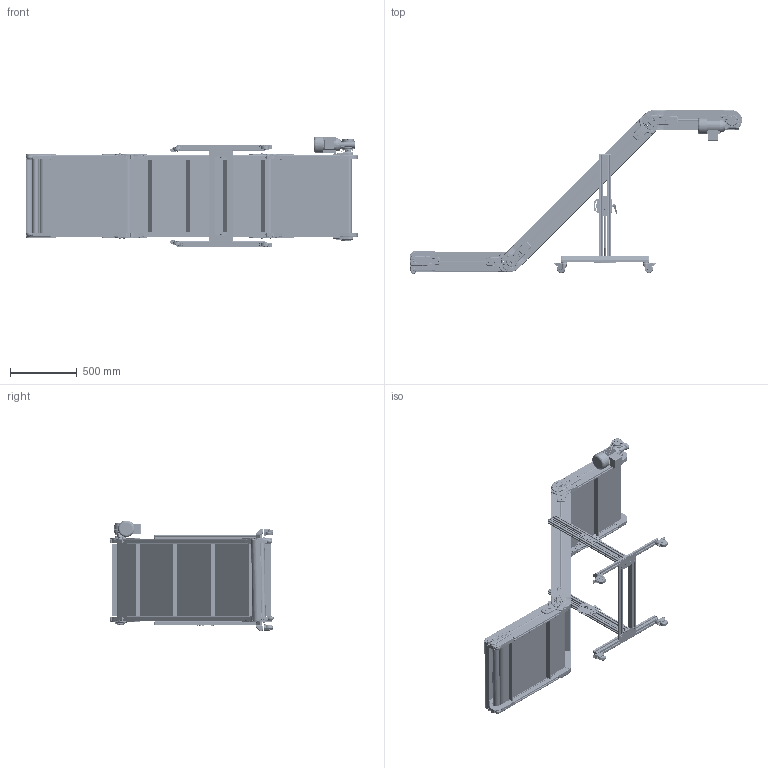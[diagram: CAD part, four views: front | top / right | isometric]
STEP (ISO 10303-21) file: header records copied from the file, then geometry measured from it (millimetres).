
FILE_DESCRIPTION (( 'STEP AP203' ), '1' );
FILE_NAME ('NASTRO_STAMPAGGIO_PLASTICA.step', '2026-05-04T09:40:16', ( 'Utente Windows' ), ( '' ), 'SwSTEP 2.0', 'SolidWorks 2024', '' );
FILE_SCHEMA (( 'CONFIG_CONTROL_DESIGN' ));
Length unit declared in the file: millimetre
Products named in the file (80): 084.831.014; 084.831.KI.550; 084.831.005_L; CUSCINETTI A SFERE_6001-2RS; MR.63 p-M8x16; 084.831.023; NASTRO_STAMPAGGIO_PLASTICA; 084.831.011; 084.831.002; 084.831.KA.550_A; 084.404.003; 084.831.004; LAMIERA_T3; RONDELLE FASCIA LARGA UNI 6593_6.4x24 UNI 6593; 084.831.003; CH04P_DX; 084.831.051_Default<A macchina>; 013.100.050_L; 013.100.045; RONDELLE UNI 6592_10.5x21 UNI 6592; 084.527.014 - CORPO; 013.100.050; 084.831.KP.550; 084.831.040.550; 084.831.013; 084.803.018; VITI TCEI UNI 5931_M8x45 UNI 5931; 084.831.015; 084.301.000 VITI ALUSIC_084.301.003; VITI TCEI UNI 5931_M5x12 UNI 5931; 084.808.012; 084.201.013; 084.831.009; 084.831.046; RONDELLE UNI 6592_6.4x12.5 UNI 6592; 084.802.062; 084.831.007; 084.831.056; 361102 serie 36; VITI TCEI UNI 5931_M5x40 UNI 5931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
Assembly tree (203 placements, depth 4):
  NASTRO_STAMPAGGIO_PLASTICA
    TAPPETO_Z
    TELAIO_Z_Default<A macchina>
    084.831.KD.44.550_DX
      084.831.004  x2
      084.831.047
      084.831.017  x2
      084.802.071
      084.301.000 VITI ALUSIC_084.301.003
      084.802.034_084.802.034  x2
      084.802.061
      VITI TE UNI 5739_M6x16 UNI 5739  x5
      CHIAVETTE_A 6x6x60 UNI 6604-69
      RONDELLE FASCIA LARGA UNI 6593_6.4x24 UNI 6593
      084.808.012
      RONDELLE UNI 6592_8.4x17 UNI 6592
      084.802.062
      084.803.018
      0412TRSEA2  x10
      VITI TCEI UNI 5931_M5x12 UNI 5931  x4
    084.831.KI.550
      084.831.001_Default<A macchina>  x2
      084.831.024  x2
      361102 serie 36  x2
      084.831.018.600
      VITI TE UNI 5739_M6x120 UNI5739  x2
      RONDELLE UNI 6592_6.4x12.5 UNI 6592  x2
      084.301.000 VITI ALUSIC_084.301.003  x2
      084.831.050
      084.831.040.550
      084.831.023  x4
      0412TRSEA2  x12
    084.831.KA_550_B  x2
      084.831.003
      084.302.016
      084.301.000 VITI ALUSIC_084.301.003
      084.831.021
      084.831.009
      084.831.014
      084.831.016
      084.831.011
      12UNI7435
      0412TRSEA2
      084.831.005
        084.831.005_L
        CUSCINETTI A SFERE_6001-2RS
    084.831.KA.550_A  x2
      084.831.002
      084.302.016
      084.831.046
      084.301.000 VITI ALUSIC_084.301.003
      RONDELLE FASCIA LARGA UNI 6593_8.4x24 UNI 6593
      084.831.005
        084.831.005_L
        CUSCINETTI A SFERE_6001-2RS
      084.831.021
      084.831.010_Default<A macchina>
      084.831.022
      084.831.005_L
      CUSCINETTI A SFERE_6001-2RS
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Bounding box: 2489.63 x 1225.6 x 832.3 mm (x, y, z)
Volume: 27870210.5 mm3; surface area: 21728932.1 mm2
Topology: 357 solids, 366 shells, 33579 faces, 89074 edges, 57013 vertices
Faces by surface type: plane 15702, cylinder 8989, bspline 3777, cone 3286, torus 1417, sphere 408
Entity records: 545070 total; most frequent: CARTESIAN_POINT 168667, ORIENTED_EDGE 81204, DIRECTION 70713, EDGE_CURVE 40602, VERTEX_POINT 26207, AXIS2_PLACEMENT_3D 23977, VECTOR 22759, LINE 22759
